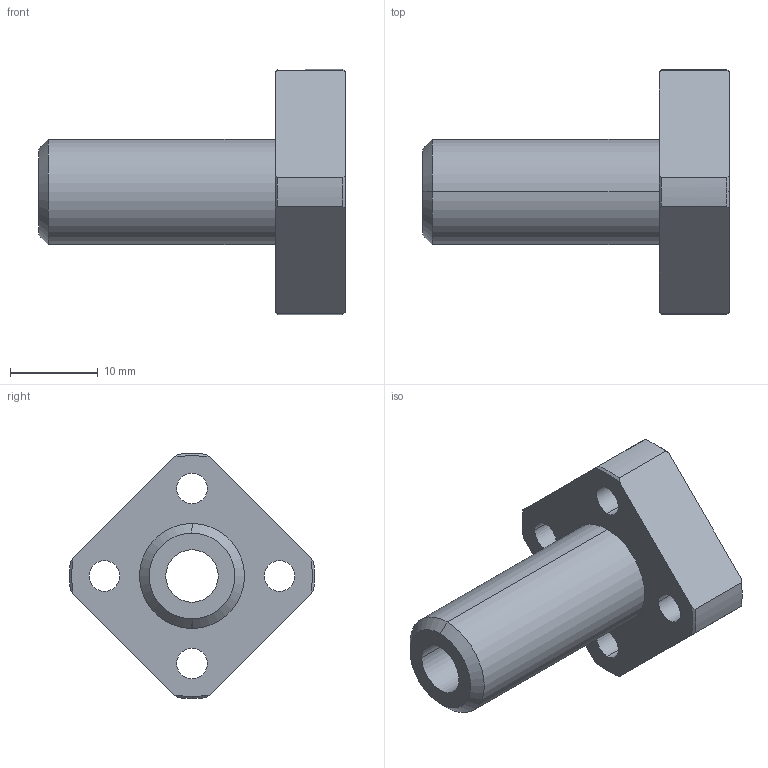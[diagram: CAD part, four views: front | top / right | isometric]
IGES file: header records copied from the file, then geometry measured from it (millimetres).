
Start section: 3D InterOp IGES (Version 21 0 1), Spatial Corp. Copyright (c) 1999-2007.
Global section: file name: DFPJ06.igs; native system: Spatial Corp.; preprocessor: 3D InterOp GENERIC/IGES 3.0; author: Noname; organization: Noname; date: 20220324.140638; units: millimetre
Bounding box: 35 x 27.98 x 28 mm (x, y, z)
Surface area: 3574.4 mm2 (no closed solid volume)
Topology: 0 solids, 0 shells, 48 faces, 240 edges, 240 vertices
Faces by surface type: revolution 37, extrusion 11
